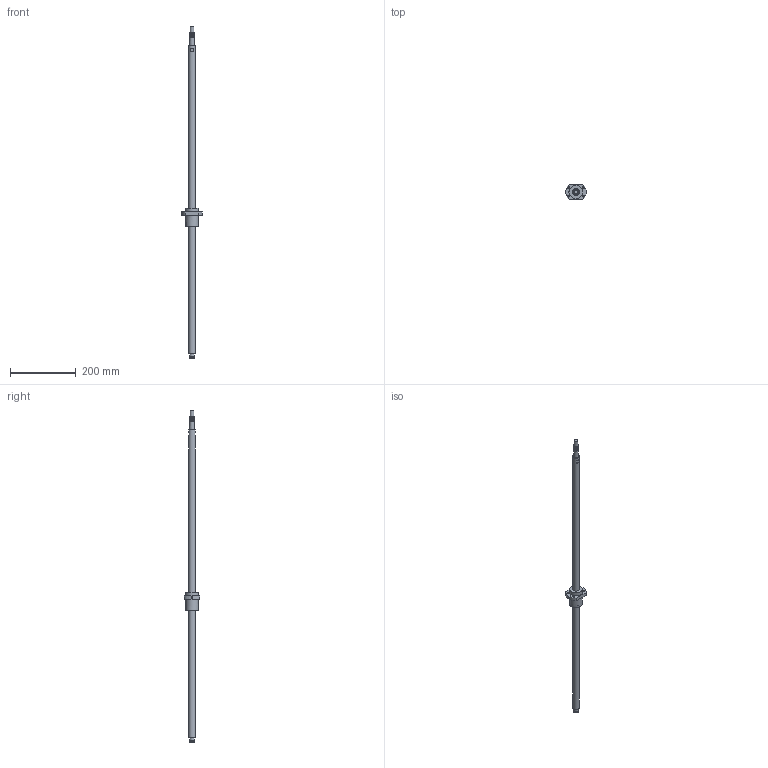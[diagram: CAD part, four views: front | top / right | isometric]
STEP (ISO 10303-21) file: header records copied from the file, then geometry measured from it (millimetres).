
FILE_DESCRIPTION(/* description */ (''),/* implementation_level */ '2;1');
FILE_NAME(/* name */ 'BSG251_asm1.stp',/* time_stamp */ '2017-01-14T09:11:44+08:00',/* author */ (''),/* organization */ (''),/* preprocessor_version */ 'ST-DEVELOPER v15',/* originating_system */ 'SIEMENS PLM Software NX 8.5',/* authorisation */ '');
FILE_SCHEMA (('AUTOMOTIVE_DESIGN { 1 0 10303 214 3 1 1 1 }'));
Length unit declared in the file: millimetre
Products named in the file (3): 01; BSG251; BSG251_asm1
Assembly tree (2 placements, depth 2):
  BSG251_asm1
    BSG251
    01
Bounding box: 62 x 46 x 1010 mm (x, y, z)
Volume: 60188.9 mm3; surface area: 79769.4 mm2
Topology: 1 solids, 2 shells, 82 faces, 215 edges, 146 vertices
Faces by surface type: plane 41, cylinder 37, bspline 2, cone 2
Full cylindrical faces by diameter (mm): 4.5 x4, 5 x1, 5.5 x4, 6 x1, 12 x1, 14.3 x1, 15 x17, 20 x2, 39 x2
Entity records: 5011 total; most frequent: CARTESIAN_POINT 3444, DIRECTION 318, ORIENTED_EDGE 268, EDGE_CURVE 134, AXIS2_PLACEMENT_3D 129, EDGE_LOOP 110, VERTEX_POINT 100, FACE_BOUND 73
